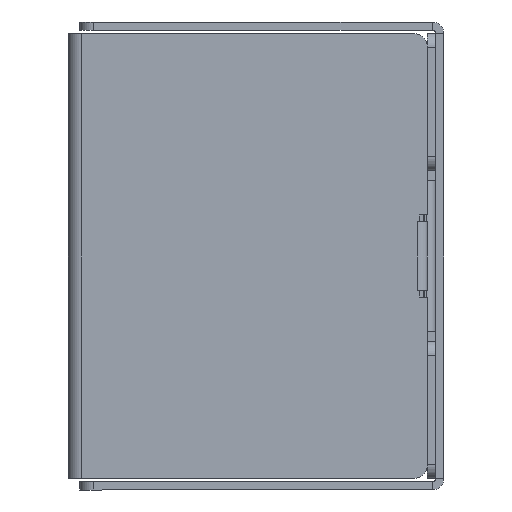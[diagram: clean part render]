
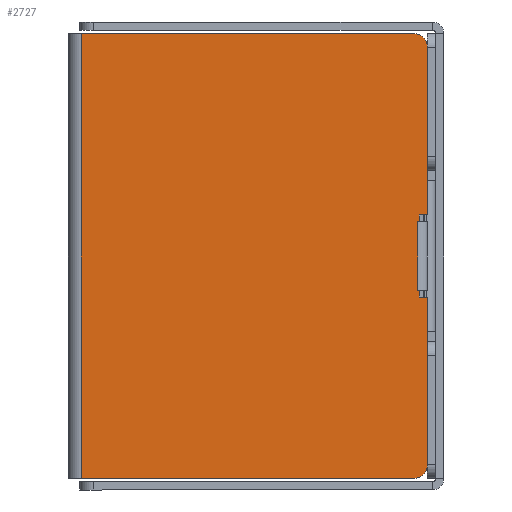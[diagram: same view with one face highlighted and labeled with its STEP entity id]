
A CAD part, left-side view. The second image highlights one B-rep face of the part: STEP entity #2727.
In plain terms, the highlighted planar face has unit normal (-1, 0, 0).
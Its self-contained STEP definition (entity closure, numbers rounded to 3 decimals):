
#2 = LINE ( 'NONE', #972, #1044 ) ;
#7 = CARTESIAN_POINT ( 'NONE',  ( -121.2, 52.963, -32.5 ) ) ;
#77 = CARTESIAN_POINT ( 'NONE',  ( -121.2, 4.4, 32.5 ) ) ;
#115 = EDGE_CURVE ( 'NONE', #4743, #1311, #4930, .T. ) ;
#181 = DIRECTION ( 'NONE',  ( 0., 0., -1. ) ) ;
#206 = CARTESIAN_POINT ( 'NONE',  ( -121.2, 3.6, 6. ) ) ;
#279 = DIRECTION ( 'NONE',  ( 0., 1., 0. ) ) ;
#293 = DIRECTION ( 'NONE',  ( -1., 0., 0. ) ) ;
#560 = FACE_OUTER_BOUND ( 'NONE', #1795, .T. ) ;
#658 = ORIENTED_EDGE ( 'NONE', *, *, #4540, .T. ) ;
#661 = LINE ( 'NONE', #702, #4219 ) ;
#673 = ORIENTED_EDGE ( 'NONE', *, *, #5722, .F. ) ;
#702 = CARTESIAN_POINT ( 'NONE',  ( -121.2, 2.4, 0. ) ) ;
#775 = CIRCLE ( 'NONE', #2302, 2. ) ;
#779 = LINE ( 'NONE', #1003, #4345 ) ;
#793 = VERTEX_POINT ( 'NONE', #2542 ) ;
#894 = VERTEX_POINT ( 'NONE', #2039 ) ;
#899 = EDGE_CURVE ( 'NONE', #1311, #2886, #3686, .T. ) ;
#939 = LINE ( 'NONE', #2102, #5545 ) ;
#972 = CARTESIAN_POINT ( 'NONE',  ( -121.2, 2.4, -6. ) ) ;
#992 = CARTESIAN_POINT ( 'NONE',  ( -121.2, 52.963, 32.5 ) ) ;
#1003 = CARTESIAN_POINT ( 'NONE',  ( -121.2, 53.7, -5. ) ) ;
#1044 = VECTOR ( 'NONE', #4102, 1000. ) ;
#1134 = VECTOR ( 'NONE', #5448, 1000. ) ;
#1174 = CARTESIAN_POINT ( 'NONE',  ( -121.2, 53.7, -32.5 ) ) ;
#1269 = CARTESIAN_POINT ( 'NONE',  ( -121.2, 2.4, -30.5 ) ) ;
#1278 = LINE ( 'NONE', #2196, #1134 ) ;
#1311 = VERTEX_POINT ( 'NONE', #4241 ) ;
#1354 = CARTESIAN_POINT ( 'NONE',  ( -121.2, 3.8, 5. ) ) ;
#1360 = ORIENTED_EDGE ( 'NONE', *, *, #4907, .F. ) ;
#1377 = VECTOR ( 'NONE', #2066, 1000. ) ;
#1454 = LINE ( 'NONE', #3246, #2641 ) ;
#1508 = LINE ( 'NONE', #992, #3754 ) ;
#1597 = ORIENTED_EDGE ( 'NONE', *, *, #2296, .T. ) ;
#1795 = EDGE_LOOP ( 'NONE', ( #5299, #658, #4794, #4198, #1360, #5692, #2924, #4129, #673, #4959, #4323, #1597, #4867, #3451 ) ) ;
#1896 = DIRECTION ( 'NONE',  ( 0., 1., 0. ) ) ;
#2016 = VERTEX_POINT ( 'NONE', #2244 ) ;
#2039 = CARTESIAN_POINT ( 'NONE',  ( -121.2, 52.963, 32.5 ) ) ;
#2060 = DIRECTION ( 'NONE',  ( -1., 0., 0. ) ) ;
#2066 = DIRECTION ( 'NONE',  ( 0., -1., 0. ) ) ;
#2102 = CARTESIAN_POINT ( 'NONE',  ( -121.2, 53.7, 32.5 ) ) ;
#2103 = LINE ( 'NONE', #2500, #4606 ) ;
#2175 = VERTEX_POINT ( 'NONE', #2951 ) ;
#2196 = CARTESIAN_POINT ( 'NONE',  ( -121.2, 2.4, 0. ) ) ;
#2244 = CARTESIAN_POINT ( 'NONE',  ( -121.2, 3.6, 5. ) ) ;
#2296 = EDGE_CURVE ( 'NONE', #2886, #5201, #661, .T. ) ;
#2302 = AXIS2_PLACEMENT_3D ( 'NONE', #2964, #293, #3417 ) ;
#2322 = CARTESIAN_POINT ( 'NONE',  ( -121.2, 2.4, -6. ) ) ;
#2500 = CARTESIAN_POINT ( 'NONE',  ( -121.2, 3.8, -5. ) ) ;
#2542 = CARTESIAN_POINT ( 'NONE',  ( -121.2, 3.6, 6. ) ) ;
#2601 = EDGE_CURVE ( 'NONE', #5208, #4679, #779, .T. ) ;
#2641 = VECTOR ( 'NONE', #1896, 1000. ) ;
#2656 = LINE ( 'NONE', #5512, #4885 ) ;
#2727 = ADVANCED_FACE ( 'NONE', ( #560 ), #4703, .F. ) ;
#2886 = VERTEX_POINT ( 'NONE', #1269 ) ;
#2924 = ORIENTED_EDGE ( 'NONE', *, *, #4097, .T. ) ;
#2946 = DIRECTION ( 'NONE',  ( 0., 0., 1. ) ) ;
#2951 = CARTESIAN_POINT ( 'NONE',  ( -121.2, 2.4, 6. ) ) ;
#2953 = DIRECTION ( 'NONE',  ( 1., 0., 0. ) ) ;
#2964 = CARTESIAN_POINT ( 'NONE',  ( -121.2, 4.4, 30.5 ) ) ;
#2994 = DIRECTION ( 'NONE',  ( 0., 1., 0. ) ) ;
#3091 = EDGE_CURVE ( 'NONE', #4505, #5201, #2, .T. ) ;
#3092 = EDGE_CURVE ( 'NONE', #2016, #4766, #4604, .T. ) ;
#3185 = AXIS2_PLACEMENT_3D ( 'NONE', #5608, #2953, #279 ) ;
#3246 = CARTESIAN_POINT ( 'NONE',  ( -121.2, 2.4, 6. ) ) ;
#3332 = DIRECTION ( 'NONE',  ( 0., 0., -1. ) ) ;
#3417 = DIRECTION ( 'NONE',  ( 0., 1., 0. ) ) ;
#3451 = ORIENTED_EDGE ( 'NONE', *, *, #4467, .F. ) ;
#3532 = CARTESIAN_POINT ( 'NONE',  ( -121.2, 3.6, -5. ) ) ;
#3572 = LINE ( 'NONE', #206, #3707 ) ;
#3686 = CIRCLE ( 'NONE', #4449, 2. ) ;
#3707 = VECTOR ( 'NONE', #3332, 1000. ) ;
#3754 = VECTOR ( 'NONE', #4120, 1000. ) ;
#3809 = CARTESIAN_POINT ( 'NONE',  ( -121.2, 3.6, -6. ) ) ;
#3830 = DIRECTION ( 'NONE',  ( 0., 0., 1. ) ) ;
#3919 = EDGE_CURVE ( 'NONE', #2175, #5530, #1278, .T. ) ;
#4097 = EDGE_CURVE ( 'NONE', #5530, #4269, #775, .T. ) ;
#4102 = DIRECTION ( 'NONE',  ( 0., -1., 0. ) ) ;
#4120 = DIRECTION ( 'NONE',  ( 0., 0., 1. ) ) ;
#4129 = ORIENTED_EDGE ( 'NONE', *, *, #5464, .T. ) ;
#4198 = ORIENTED_EDGE ( 'NONE', *, *, #4438, .F. ) ;
#4219 = VECTOR ( 'NONE', #3830, 1000. ) ;
#4241 = CARTESIAN_POINT ( 'NONE',  ( -121.2, 4.4, -32.5 ) ) ;
#4269 = VERTEX_POINT ( 'NONE', #77 ) ;
#4323 = ORIENTED_EDGE ( 'NONE', *, *, #899, .T. ) ;
#4345 = VECTOR ( 'NONE', #4579, 1000. ) ;
#4370 = CARTESIAN_POINT ( 'NONE',  ( -121.2, 2.4, 30.5 ) ) ;
#4438 = EDGE_CURVE ( 'NONE', #793, #2016, #2656, .T. ) ;
#4449 = AXIS2_PLACEMENT_3D ( 'NONE', #4731, #2060, #5169 ) ;
#4466 = VECTOR ( 'NONE', #4981, 1000. ) ;
#4467 = EDGE_CURVE ( 'NONE', #4679, #4505, #3572, .T. ) ;
#4505 = VERTEX_POINT ( 'NONE', #3809 ) ;
#4540 = EDGE_CURVE ( 'NONE', #5208, #4766, #2103, .T. ) ;
#4550 = CARTESIAN_POINT ( 'NONE',  ( -121.2, 53.7, 5. ) ) ;
#4579 = DIRECTION ( 'NONE',  ( 0., -1., 0. ) ) ;
#4604 = LINE ( 'NONE', #4550, #4466 ) ;
#4606 = VECTOR ( 'NONE', #2946, 1000. ) ;
#4679 = VERTEX_POINT ( 'NONE', #3532 ) ;
#4703 = PLANE ( 'NONE',  #3185 ) ;
#4731 = CARTESIAN_POINT ( 'NONE',  ( -121.2, 4.4, -30.5 ) ) ;
#4743 = VERTEX_POINT ( 'NONE', #7 ) ;
#4766 = VERTEX_POINT ( 'NONE', #1354 ) ;
#4794 = ORIENTED_EDGE ( 'NONE', *, *, #3092, .F. ) ;
#4867 = ORIENTED_EDGE ( 'NONE', *, *, #3091, .F. ) ;
#4885 = VECTOR ( 'NONE', #181, 1000. ) ;
#4907 = EDGE_CURVE ( 'NONE', #2175, #793, #1454, .T. ) ;
#4930 = LINE ( 'NONE', #1174, #1377 ) ;
#4959 = ORIENTED_EDGE ( 'NONE', *, *, #115, .T. ) ;
#4981 = DIRECTION ( 'NONE',  ( 0., 1., 0. ) ) ;
#5169 = DIRECTION ( 'NONE',  ( 0., 1., 0. ) ) ;
#5201 = VERTEX_POINT ( 'NONE', #2322 ) ;
#5208 = VERTEX_POINT ( 'NONE', #5422 ) ;
#5299 = ORIENTED_EDGE ( 'NONE', *, *, #2601, .F. ) ;
#5422 = CARTESIAN_POINT ( 'NONE',  ( -121.2, 3.8, -5. ) ) ;
#5448 = DIRECTION ( 'NONE',  ( 0., 0., 1. ) ) ;
#5464 = EDGE_CURVE ( 'NONE', #4269, #894, #939, .T. ) ;
#5512 = CARTESIAN_POINT ( 'NONE',  ( -121.2, 3.6, 6. ) ) ;
#5530 = VERTEX_POINT ( 'NONE', #4370 ) ;
#5545 = VECTOR ( 'NONE', #2994, 1000. ) ;
#5608 = CARTESIAN_POINT ( 'NONE',  ( -121.2, 53.7, 0. ) ) ;
#5692 = ORIENTED_EDGE ( 'NONE', *, *, #3919, .T. ) ;
#5722 = EDGE_CURVE ( 'NONE', #4743, #894, #1508, .T. ) ;
